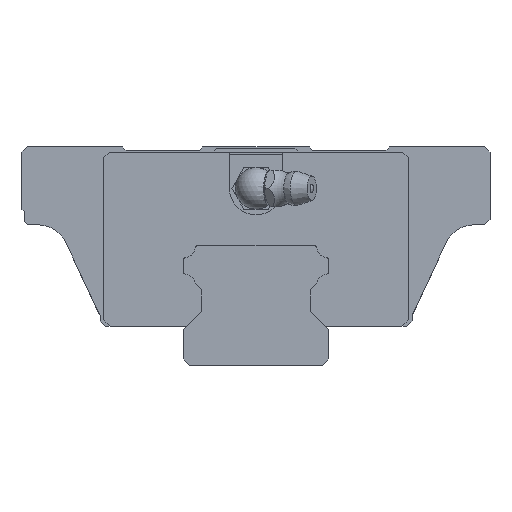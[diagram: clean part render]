
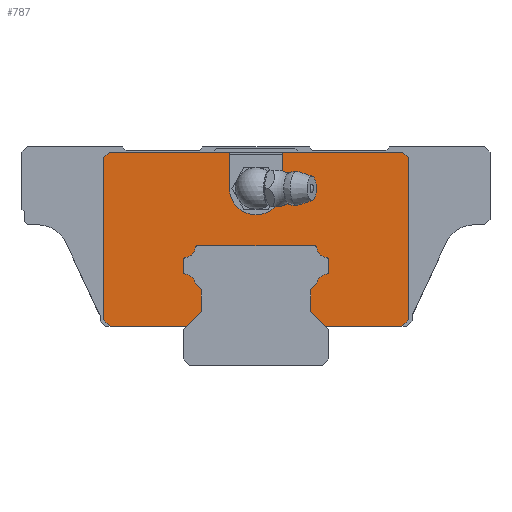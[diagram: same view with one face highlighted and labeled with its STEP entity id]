
A CAD part, front view. The second image highlights one B-rep face of the part: STEP entity #787.
In plain terms, the highlighted planar face has unit normal (0, -1, 0).
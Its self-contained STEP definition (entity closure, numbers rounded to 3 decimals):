
#553=CIRCLE('',#4318,2.);
#555=CIRCLE('',#4321,0.5);
#557=CIRCLE('',#4325,0.5);
#559=CIRCLE('',#4328,2.);
#561=CIRCLE('',#4331,0.5);
#563=CIRCLE('',#4335,0.5);
#565=CIRCLE('',#4338,2.);
#567=CIRCLE('',#4341,0.5);
#569=CIRCLE('',#4344,0.5);
#571=CIRCLE('',#4347,2.);
#586=CIRCLE('',#4399,5.1);
#787=ADVANCED_FACE('',(#1127),#972,.F.);
#972=PLANE('',#4400);
#1127=FACE_OUTER_BOUND('',#1344,.T.);
#1344=EDGE_LOOP('',(#2057,#2058,#2059,#2060,#2061,#2062,#2063,#2064,#2065,
#2066,#2067,#2068,#2069,#2070,#2071,#2072,#2073,#2074,#2075,#2076,#2077,
#2078,#2079,#2080,#2081,#2082,#2083,#2084,#2085,#2086,#2087,#2088));
#2057=ORIENTED_EDGE('',*,*,#3149,.F.);
#2058=ORIENTED_EDGE('',*,*,#3232,.T.);
#2059=ORIENTED_EDGE('',*,*,#3251,.T.);
#2060=ORIENTED_EDGE('',*,*,#3253,.T.);
#2061=ORIENTED_EDGE('',*,*,#3244,.T.);
#2062=ORIENTED_EDGE('',*,*,#3240,.T.);
#2063=ORIENTED_EDGE('',*,*,#3271,.F.);
#2064=ORIENTED_EDGE('',*,*,#3272,.F.);
#2065=ORIENTED_EDGE('',*,*,#3273,.F.);
#2066=ORIENTED_EDGE('',*,*,#3236,.T.);
#2067=ORIENTED_EDGE('',*,*,#3247,.T.);
#2068=ORIENTED_EDGE('',*,*,#3249,.T.);
#2069=ORIENTED_EDGE('',*,*,#3242,.T.);
#2070=ORIENTED_EDGE('',*,*,#3227,.T.);
#2071=ORIENTED_EDGE('',*,*,#3209,.F.);
#2072=ORIENTED_EDGE('',*,*,#3206,.F.);
#2073=ORIENTED_EDGE('',*,*,#3203,.F.);
#2074=ORIENTED_EDGE('',*,*,#3200,.F.);
#2075=ORIENTED_EDGE('',*,*,#3197,.F.);
#2076=ORIENTED_EDGE('',*,*,#3211,.F.);
#2077=ORIENTED_EDGE('',*,*,#3191,.F.);
#2078=ORIENTED_EDGE('',*,*,#3188,.F.);
#2079=ORIENTED_EDGE('',*,*,#3183,.F.);
#2080=ORIENTED_EDGE('',*,*,#3180,.F.);
#2081=ORIENTED_EDGE('',*,*,#3177,.F.);
#2082=ORIENTED_EDGE('',*,*,#3174,.F.);
#2083=ORIENTED_EDGE('',*,*,#3171,.F.);
#2084=ORIENTED_EDGE('',*,*,#3166,.F.);
#2085=ORIENTED_EDGE('',*,*,#3163,.F.);
#2086=ORIENTED_EDGE('',*,*,#3160,.F.);
#2087=ORIENTED_EDGE('',*,*,#3155,.F.);
#2088=ORIENTED_EDGE('',*,*,#3152,.F.);
#2712=VERTEX_POINT('',#6071);
#2714=VERTEX_POINT('',#6075);
#2716=VERTEX_POINT('',#6080);
#2718=VERTEX_POINT('',#6086);
#2720=VERTEX_POINT('',#6095);
#2724=VERTEX_POINT('',#6111);
#2726=VERTEX_POINT('',#6117);
#2728=VERTEX_POINT('',#6126);
#2732=VERTEX_POINT('',#6142);
#2734=VERTEX_POINT('',#6148);
#2736=VERTEX_POINT('',#6154);
#2738=VERTEX_POINT('',#6160);
#2740=VERTEX_POINT('',#6169);
#2744=VERTEX_POINT('',#6185);
#2746=VERTEX_POINT('',#6194);
#2750=VERTEX_POINT('',#6208);
#2752=VERTEX_POINT('',#6213);
#2754=VERTEX_POINT('',#6219);
#2756=VERTEX_POINT('',#6225);
#2758=VERTEX_POINT('',#6231);
#2772=VERTEX_POINT('',#6268);
#2774=VERTEX_POINT('',#6275);
#2775=VERTEX_POINT('',#6285);
#2776=VERTEX_POINT('',#6287);
#2779=VERTEX_POINT('',#6293);
#2780=VERTEX_POINT('',#6295);
#2781=VERTEX_POINT('',#6299);
#2782=VERTEX_POINT('',#6303);
#2783=VERTEX_POINT('',#6307);
#2785=VERTEX_POINT('',#6315);
#2801=VERTEX_POINT('',#6372);
#2802=VERTEX_POINT('',#6374);
#3149=EDGE_CURVE('',#2714,#2712,#3646,.T.);
#3152=EDGE_CURVE('',#2712,#2716,#3649,.T.);
#3155=EDGE_CURVE('',#2716,#2718,#3652,.T.);
#3160=EDGE_CURVE('',#2718,#2720,#553,.T.);
#3163=EDGE_CURVE('',#2720,#2724,#555,.T.);
#3166=EDGE_CURVE('',#2724,#2726,#3656,.T.);
#3171=EDGE_CURVE('',#2726,#2728,#557,.T.);
#3174=EDGE_CURVE('',#2728,#2732,#559,.T.);
#3177=EDGE_CURVE('',#2732,#2734,#561,.T.);
#3180=EDGE_CURVE('',#2734,#2736,#3661,.T.);
#3183=EDGE_CURVE('',#2736,#2738,#563,.T.);
#3188=EDGE_CURVE('',#2738,#2740,#565,.T.);
#3191=EDGE_CURVE('',#2740,#2744,#567,.T.);
#3197=EDGE_CURVE('',#2750,#2746,#569,.T.);
#3200=EDGE_CURVE('',#2746,#2752,#571,.T.);
#3203=EDGE_CURVE('',#2752,#2754,#3668,.T.);
#3206=EDGE_CURVE('',#2754,#2756,#3671,.T.);
#3209=EDGE_CURVE('',#2756,#2758,#3674,.T.);
#3211=EDGE_CURVE('',#2744,#2750,#3676,.T.);
#3227=EDGE_CURVE('',#2772,#2758,#3692,.T.);
#3232=EDGE_CURVE('',#2714,#2774,#3697,.T.);
#3236=EDGE_CURVE('',#2776,#2775,#3701,.T.);
#3240=EDGE_CURVE('',#2780,#2779,#3705,.T.);
#3242=EDGE_CURVE('',#2781,#2772,#3707,.T.);
#3244=EDGE_CURVE('',#2782,#2780,#3709,.T.);
#3247=EDGE_CURVE('',#2775,#2783,#3712,.T.);
#3249=EDGE_CURVE('',#2783,#2781,#3713,.T.);
#3251=EDGE_CURVE('',#2774,#2785,#3715,.T.);
#3253=EDGE_CURVE('',#2785,#2782,#3716,.T.);
#3271=EDGE_CURVE('',#2801,#2779,#3722,.T.);
#3272=EDGE_CURVE('',#2802,#2801,#586,.T.);
#3273=EDGE_CURVE('',#2776,#2802,#3723,.T.);
#3646=LINE('',#6076,#4002);
#3649=LINE('',#6082,#4005);
#3652=LINE('',#6088,#4008);
#3656=LINE('',#6119,#4012);
#3661=LINE('',#6156,#4017);
#3668=LINE('',#6221,#4024);
#3671=LINE('',#6227,#4027);
#3674=LINE('',#6233,#4030);
#3676=LINE('',#6236,#4032);
#3692=LINE('',#6267,#4048);
#3697=LINE('',#6276,#4053);
#3701=LINE('',#6286,#4057);
#3705=LINE('',#6294,#4061);
#3707=LINE('',#6298,#4063);
#3709=LINE('',#6302,#4065);
#3712=LINE('',#6308,#4068);
#3713=LINE('',#6312,#4069);
#3715=LINE('',#6316,#4071);
#3716=LINE('',#6320,#4072);
#3722=LINE('',#6371,#4078);
#3723=LINE('',#6375,#4079);
#4002=VECTOR('',#4942,1.);
#4005=VECTOR('',#4947,1.);
#4008=VECTOR('',#4952,1.);
#4012=VECTOR('',#4970,1.);
#4017=VECTOR('',#4995,1.);
#4024=VECTOR('',#5034,1.);
#4027=VECTOR('',#5039,1.);
#4030=VECTOR('',#5044,1.);
#4032=VECTOR('',#5048,1.);
#4048=VECTOR('',#5068,1.);
#4053=VECTOR('',#5075,1.);
#4057=VECTOR('',#5089,1.);
#4061=VECTOR('',#5093,1.);
#4063=VECTOR('',#5097,1.);
#4065=VECTOR('',#5101,1.);
#4068=VECTOR('',#5106,1.);
#4069=VECTOR('',#5111,1.);
#4071=VECTOR('',#5115,1.);
#4072=VECTOR('',#5120,1.);
#4078=VECTOR('',#5188,1.);
#4079=VECTOR('',#5191,1.);
#4318=AXIS2_PLACEMENT_3D('',#6107,#4957,#4958);
#4321=AXIS2_PLACEMENT_3D('',#6113,#4964,#4965);
#4325=AXIS2_PLACEMENT_3D('',#6138,#4975,#4976);
#4328=AXIS2_PLACEMENT_3D('',#6144,#4982,#4983);
#4331=AXIS2_PLACEMENT_3D('',#6150,#4989,#4990);
#4335=AXIS2_PLACEMENT_3D('',#6162,#5001,#5002);
#4338=AXIS2_PLACEMENT_3D('',#6181,#5007,#5008);
#4341=AXIS2_PLACEMENT_3D('',#6187,#5014,#5015);
#4344=AXIS2_PLACEMENT_3D('',#6209,#5021,#5022);
#4347=AXIS2_PLACEMENT_3D('',#6215,#5028,#5029);
#4399=AXIS2_PLACEMENT_3D('',#6373,#5189,#5190);
#4400=AXIS2_PLACEMENT_3D('',#6376,#5192,#5193);
#4942=DIRECTION('',(-0.707,0.,0.707));
#4947=DIRECTION('',(0.,0.,1.));
#4952=DIRECTION('',(0.707,0.,0.707));
#4957=DIRECTION('',(0.,1.,0.));
#4958=DIRECTION('',(0.,0.,1.));
#4964=DIRECTION('',(0.,-1.,0.));
#4965=DIRECTION('',(0.,0.,1.));
#4970=DIRECTION('',(0.,0.,1.));
#4975=DIRECTION('',(0.,-1.,0.));
#4976=DIRECTION('',(0.,0.,1.));
#4982=DIRECTION('',(0.,1.,0.));
#4983=DIRECTION('',(0.,0.,1.));
#4989=DIRECTION('',(0.,-1.,0.));
#4990=DIRECTION('',(0.,0.,1.));
#4995=DIRECTION('',(-1.,0.,0.));
#5001=DIRECTION('',(0.,-1.,0.));
#5002=DIRECTION('',(0.,0.,1.));
#5007=DIRECTION('',(0.,1.,0.));
#5008=DIRECTION('',(0.,0.,1.));
#5014=DIRECTION('',(0.,-1.,0.));
#5015=DIRECTION('',(0.,0.,1.));
#5021=DIRECTION('',(0.,-1.,0.));
#5022=DIRECTION('',(0.,0.,1.));
#5028=DIRECTION('',(0.,1.,0.));
#5029=DIRECTION('',(0.,0.,1.));
#5034=DIRECTION('',(0.707,0.,-0.707));
#5039=DIRECTION('',(0.,0.,-1.));
#5044=DIRECTION('',(-0.707,0.,-0.707));
#5048=DIRECTION('',(0.,0.,-1.));
#5068=DIRECTION('',(1.,0.,0.));
#5075=DIRECTION('',(1.,0.,0.));
#5089=DIRECTION('',(-1.,0.,0.));
#5093=DIRECTION('',(-1.,0.,0.));
#5097=DIRECTION('',(0.707,0.,-0.707));
#5101=DIRECTION('',(-0.707,0.,0.707));
#5106=DIRECTION('',(-0.707,0.,-0.707));
#5111=DIRECTION('',(0.,0.,-1.));
#5115=DIRECTION('',(0.707,0.,0.707));
#5120=DIRECTION('',(0.,0.,1.));
#5188=DIRECTION('',(0.,0.,1.));
#5189=DIRECTION('',(0.,-1.,0.));
#5190=DIRECTION('',(-1.,0.,0.));
#5191=DIRECTION('',(0.,0.,-1.));
#5192=DIRECTION('',(0.,1.,0.));
#5193=DIRECTION('',(0.,0.,1.));
#6071=CARTESIAN_POINT('',(10.5,-13.8,10.3));
#6075=CARTESIAN_POINT('',(13.3,-13.8,7.5));
#6076=CARTESIAN_POINT('',(20.675,-13.8,0.125));
#6080=CARTESIAN_POINT('',(10.5,-13.8,14.502));
#6082=CARTESIAN_POINT('',(10.5,-13.8,24.35));
#6086=CARTESIAN_POINT('',(11.701,-13.8,15.703));
#6088=CARTESIAN_POINT('',(32.624,-13.8,36.626));
#6095=CARTESIAN_POINT('',(13.536,-13.8,17.496));
#6107=CARTESIAN_POINT('',(13.691,-13.8,15.502));
#6111=CARTESIAN_POINT('',(14.,-13.8,17.995));
#6113=CARTESIAN_POINT('',(13.5,-13.8,17.995));
#6117=CARTESIAN_POINT('',(14.,-13.8,20.226));
#6119=CARTESIAN_POINT('',(14.,-13.8,24.35));
#6126=CARTESIAN_POINT('',(13.536,-13.8,20.725));
#6138=CARTESIAN_POINT('',(13.5,-13.8,20.226));
#6142=CARTESIAN_POINT('',(11.699,-13.8,22.544));
#6144=CARTESIAN_POINT('',(13.691,-13.8,22.719));
#6148=CARTESIAN_POINT('',(11.201,-13.8,23.));
#6150=CARTESIAN_POINT('',(11.201,-13.8,22.5));
#6154=CARTESIAN_POINT('',(-11.201,-13.8,23.));
#6156=CARTESIAN_POINT('',(44.9,-13.8,23.));
#6160=CARTESIAN_POINT('',(-11.699,-13.8,22.544));
#6162=CARTESIAN_POINT('',(-11.201,-13.8,22.5));
#6169=CARTESIAN_POINT('',(-13.536,-13.8,20.725));
#6181=CARTESIAN_POINT('',(-13.691,-13.8,22.719));
#6185=CARTESIAN_POINT('',(-14.,-13.8,20.226));
#6187=CARTESIAN_POINT('',(-13.5,-13.8,20.226));
#6194=CARTESIAN_POINT('',(-13.536,-13.8,17.496));
#6208=CARTESIAN_POINT('',(-14.,-13.8,17.995));
#6209=CARTESIAN_POINT('',(-13.5,-13.8,17.995));
#6213=CARTESIAN_POINT('',(-11.701,-13.8,15.703));
#6215=CARTESIAN_POINT('',(-13.691,-13.8,15.502));
#6219=CARTESIAN_POINT('',(-10.5,-13.8,14.502));
#6221=CARTESIAN_POINT('',(12.276,-13.8,-8.274));
#6225=CARTESIAN_POINT('',(-10.5,-13.8,10.3));
#6227=CARTESIAN_POINT('',(-10.5,-13.8,24.35));
#6231=CARTESIAN_POINT('',(-13.3,-13.8,7.5));
#6233=CARTESIAN_POINT('',(24.225,-13.8,45.025));
#6236=CARTESIAN_POINT('',(-14.,-13.8,24.35));
#6267=CARTESIAN_POINT('',(-28.05,-13.8,7.5));
#6268=CARTESIAN_POINT('',(-28.05,-13.8,7.5));
#6275=CARTESIAN_POINT('',(28.05,-13.8,7.5));
#6276=CARTESIAN_POINT('',(-28.05,-13.8,7.5));
#6285=CARTESIAN_POINT('',(-28.25,-13.8,41.));
#6286=CARTESIAN_POINT('',(28.25,-13.8,41.));
#6287=CARTESIAN_POINT('',(-5.1,-13.8,41.));
#6293=CARTESIAN_POINT('',(5.1,-13.8,41.));
#6294=CARTESIAN_POINT('',(28.25,-13.8,41.));
#6295=CARTESIAN_POINT('',(28.25,-13.8,41.));
#6298=CARTESIAN_POINT('',(-29.25,-13.8,8.7));
#6299=CARTESIAN_POINT('',(-29.25,-13.8,8.7));
#6302=CARTESIAN_POINT('',(29.25,-13.8,40.));
#6303=CARTESIAN_POINT('',(29.25,-13.8,40.));
#6307=CARTESIAN_POINT('',(-29.25,-13.8,40.));
#6308=CARTESIAN_POINT('',(-28.25,-13.8,41.));
#6312=CARTESIAN_POINT('',(-29.25,-13.8,40.));
#6315=CARTESIAN_POINT('',(29.25,-13.8,8.7));
#6316=CARTESIAN_POINT('',(28.05,-13.8,7.5));
#6320=CARTESIAN_POINT('',(29.25,-13.8,8.7));
#6371=CARTESIAN_POINT('',(5.1,-13.8,34.));
#6372=CARTESIAN_POINT('',(5.1,-13.8,34.));
#6373=CARTESIAN_POINT('',(0.,-13.8,34.));
#6374=CARTESIAN_POINT('',(-5.1,-13.8,34.));
#6375=CARTESIAN_POINT('',(-5.1,-13.8,41.));
#6376=CARTESIAN_POINT('',(44.9,-13.8,24.35));
